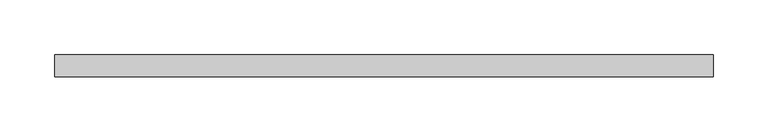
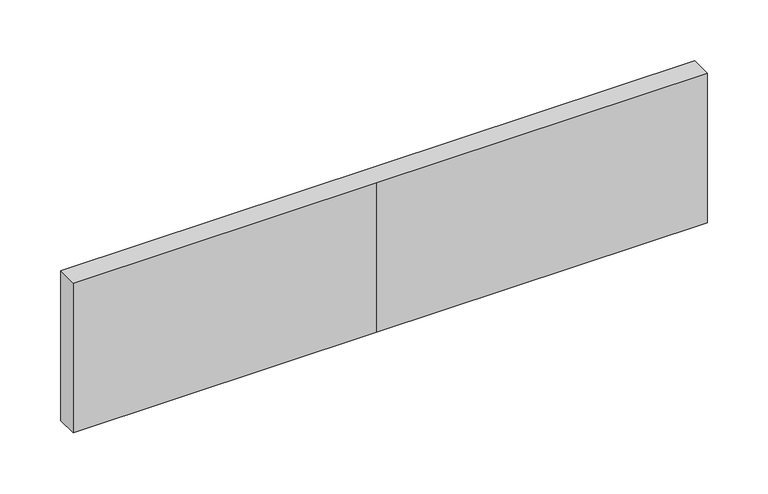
"""IFC4 building model written with IfcOpenShell, lengths in millimetres: furniture geometry, Tampo Inferior do Painel de TV : Tampo Inferior do Painel de TV."""

from ifc_helpers import new_model, si_unit, origin, origin_with_axes, place, context, project, spatial, polyline, outline, extrude, source, transform, mapped, element, save


def furniture_c7928b1a(model_context):
    return source(origin(), model_context, "Body", "SweptSolid", [
        extrude(outline(polyline([(600.0, 0.0), (287.0913499, 0.0), (0.0, 0.0), (0.0, 20.0), (600.0, 20.0), (600.0, 0.0)])), origin_with_axes(), (0.0, 0.0, 1.0), 150.0),
    ])


if __name__ == "__main__":
    model = new_model("IFC4")
    model_context = context("Model", 3, world=origin())
    ifc_project = project(units=[si_unit("LENGTHUNIT", "METRE", prefix="MILLI")], contexts=[model_context])
    site = spatial("IfcSite", under=ifc_project)
    building = spatial("IfcBuilding", under=site)
    placement = place(None, origin())
    furniture_shape = furniture_c7928b1a(model_context)
    element("IfcFurniture", 1, ObjectType="Tampo Inferior do Painel de TV : Tampo Inferior do Painel de TV", at=placement, inside=building, context=model_context, shape_type="MappedRepresentation", body=[
        mapped(furniture_shape, transform((0.0, 0.0, 0.0), x_axis=(1.0, 0.0, 0.0), y_axis=(0.0, 1.0, 0.0), z_axis=(0.0, 0.0, 1.0))),
    ])
    save(model, "model.ifc")
